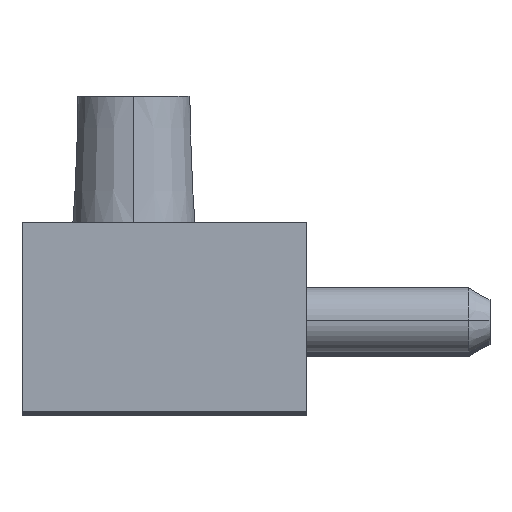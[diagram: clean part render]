
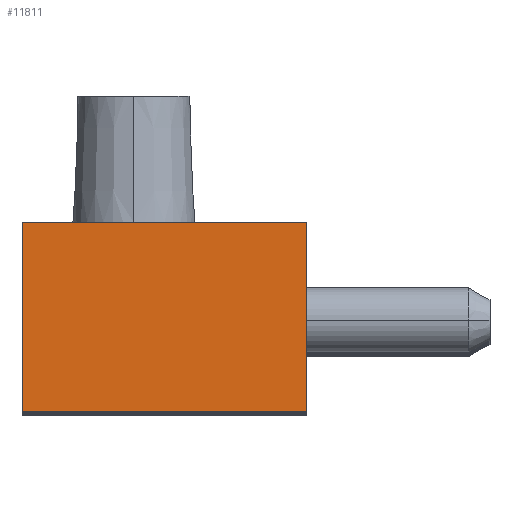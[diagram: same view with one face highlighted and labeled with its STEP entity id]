
A CAD part, top view. The second image highlights one B-rep face of the part: STEP entity #11811.
In plain terms, the highlighted planar face has unit normal (0, 0, 1).
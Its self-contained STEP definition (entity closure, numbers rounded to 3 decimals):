
#8979 = CARTESIAN_POINT ( 'NONE',  ( -7., 0., 0. ) ) ;
#8980 = DIRECTION ( 'NONE',  ( 1., 0., 0. ) ) ;
#8981 = VECTOR ( 'NONE', #8980, 1000. ) ;
#8982 = CARTESIAN_POINT ( 'NONE',  ( 0., 0., 0. ) ) ;
#8983 = LINE ( 'NONE', #8982, #8981 ) ;
#8984 = CARTESIAN_POINT ( 'NONE',  ( 7., 0., 0. ) ) ;
#11735 = ORIENTED_EDGE ( 'NONE', *, *, #47995, .T. ) ;
#11750 = VERTEX_POINT ( 'NONE', #19152 ) ;
#11752 = EDGE_CURVE ( 'NONE', #47993, #11750, #19151, .T. ) ;
#11811 = ADVANCED_FACE ( 'NONE', ( #19208 ), #19207, .T. ) ;
#11812 = EDGE_LOOP ( 'NONE', ( #11813, #11814, #11817, #11735 ) ) ;
#11813 = ORIENTED_EDGE ( 'NONE', *, *, #11752, .T. ) ;
#11814 = ORIENTED_EDGE ( 'NONE', *, *, #11815, .T. ) ;
#11815 = EDGE_CURVE ( 'NONE', #11750, #11816, #19201, .T. ) ;
#11816 = VERTEX_POINT ( 'NONE', #19197 ) ;
#11817 = ORIENTED_EDGE ( 'NONE', *, *, #11818, .T. ) ;
#11818 = EDGE_CURVE ( 'NONE', #11816, #47996, #19264, .T. ) ;
#19148 = DIRECTION ( 'NONE',  ( 0., 1., 0. ) ) ;
#19149 = VECTOR ( 'NONE', #19148, 1000. ) ;
#19150 = CARTESIAN_POINT ( 'NONE',  ( 7., 4.65, 0. ) ) ;
#19151 = LINE ( 'NONE', #19150, #19149 ) ;
#19152 = CARTESIAN_POINT ( 'NONE',  ( 7., 9.3, 0. ) ) ;
#19197 = CARTESIAN_POINT ( 'NONE',  ( -7., 9.3, 0. ) ) ;
#19198 = DIRECTION ( 'NONE',  ( -1., 0., 0. ) ) ;
#19199 = VECTOR ( 'NONE', #19198, 1000. ) ;
#19200 = CARTESIAN_POINT ( 'NONE',  ( -7., 9.3, 0. ) ) ;
#19201 = LINE ( 'NONE', #19200, #19199 ) ;
#19203 = DIRECTION ( 'NONE',  ( 1., 0., 0. ) ) ;
#19204 = DIRECTION ( 'NONE',  ( 0., 0., 1. ) ) ;
#19205 = CARTESIAN_POINT ( 'NONE',  ( -7., 0., 0. ) ) ;
#19206 = AXIS2_PLACEMENT_3D ( 'NONE', #19205, #19204, #19203 ) ;
#19207 = PLANE ( 'NONE',  #19206 ) ;
#19208 = FACE_OUTER_BOUND ( 'NONE', #11812, .T. ) ;
#19261 = DIRECTION ( 'NONE',  ( 0., -1., 0. ) ) ;
#19262 = VECTOR ( 'NONE', #19261, 1000. ) ;
#19263 = CARTESIAN_POINT ( 'NONE',  ( -7., 4.65, 0. ) ) ;
#19264 = LINE ( 'NONE', #19263, #19262 ) ;
#47993 = VERTEX_POINT ( 'NONE', #8984 ) ;
#47995 = EDGE_CURVE ( 'NONE', #47996, #47993, #8983, .T. ) ;
#47996 = VERTEX_POINT ( 'NONE', #8979 ) ;
